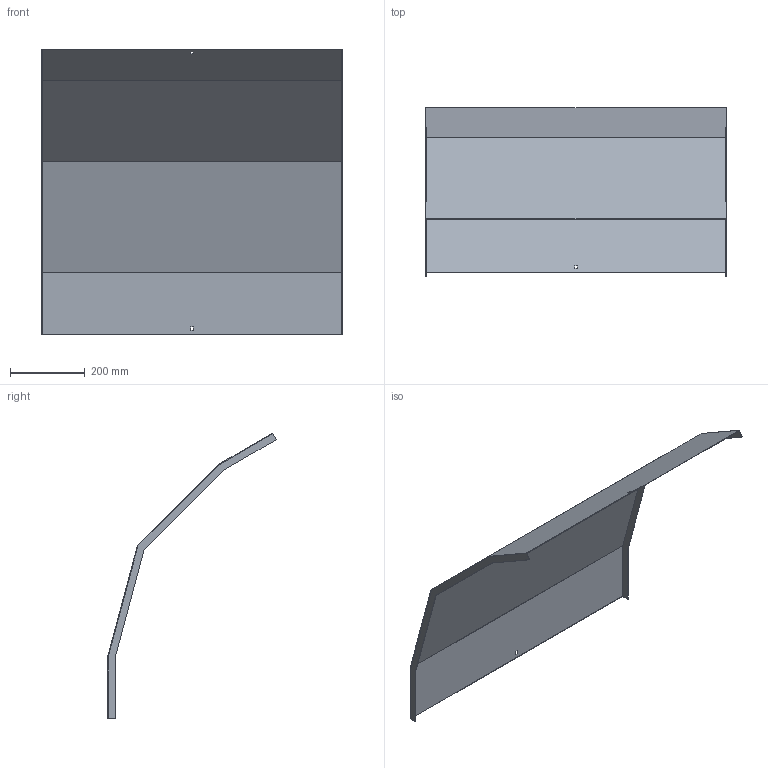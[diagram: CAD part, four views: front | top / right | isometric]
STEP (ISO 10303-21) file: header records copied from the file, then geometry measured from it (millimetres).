
FILE_DESCRIPTION (( 'STEP AP214' ), '1' );
FILE_NAME ('41N5D800.step', '2025-02-21T10:38:24', ( '' ), ( '' ), 'SwSTEP 2.0', 'SolidWorks 2023', '' );
FILE_SCHEMA (( 'AUTOMOTIVE_DESIGN' ));
Length unit declared in the file: millimetre
Products named in the file (1): 41N5D800
Bounding box: 803 x 449.97 x 762.06 mm (x, y, z)
Volume: 1189245.9 mm3; surface area: 1591048.7 mm2
Topology: 1 solids, 1 shells, 30 faces, 84 edges, 56 vertices
Faces by surface type: plane 30
Entity records: 979 total; most frequent: CARTESIAN_POINT 171, ORIENTED_EDGE 168, DIRECTION 146, EDGE_CURVE 84, LINE 84, VECTOR 84, VERTEX_POINT 56, EDGE_LOOP 34
